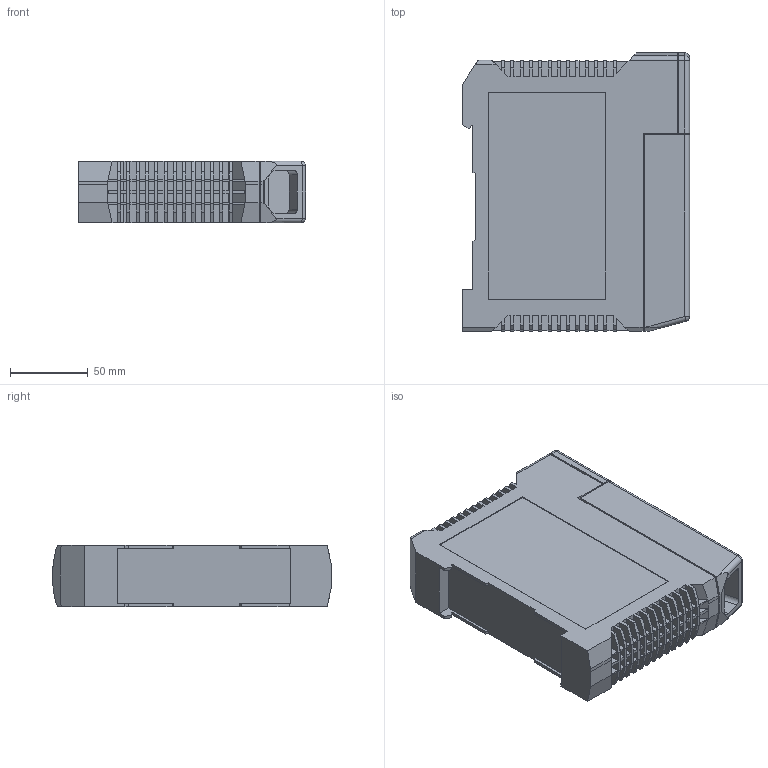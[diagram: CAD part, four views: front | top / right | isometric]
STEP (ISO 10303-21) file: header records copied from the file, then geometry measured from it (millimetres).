
FILE_DESCRIPTION(('STEP AP242'), '1');
FILE_NAME('R500S', '', ('UNSPECIFIED'), ('UNSPECIFIED'), 'C3D Converter', 'C3D Toolkit', '');
FILE_SCHEMA(('AP242_MANAGED_MODEL_BASED_3D_ENGINEERING_MIM_LF { 1 0 10303 442 1 1 4 }'));
Length unit declared in the file: millimetre
Bounding box: 146.5 x 179.99 x 40 mm (x, y, z)
Volume: 920402 mm3; surface area: 103833.1 mm2
Topology: 1 solids, 1 shells, 632 faces, 1867 edges, 1238 vertices
Faces by surface type: plane 606, cylinder 21, bspline 4, torus 1
Entity records: 25987 total; most frequent: CARTESIAN_POINT 4060, ORIENTED_EDGE 3726, DIRECTION 3140, EDGE_CURVE 1863, LINE 1816, VECTOR 1816, VERTEX_POINT 1238, AXIS2_PLACEMENT_3D 662
